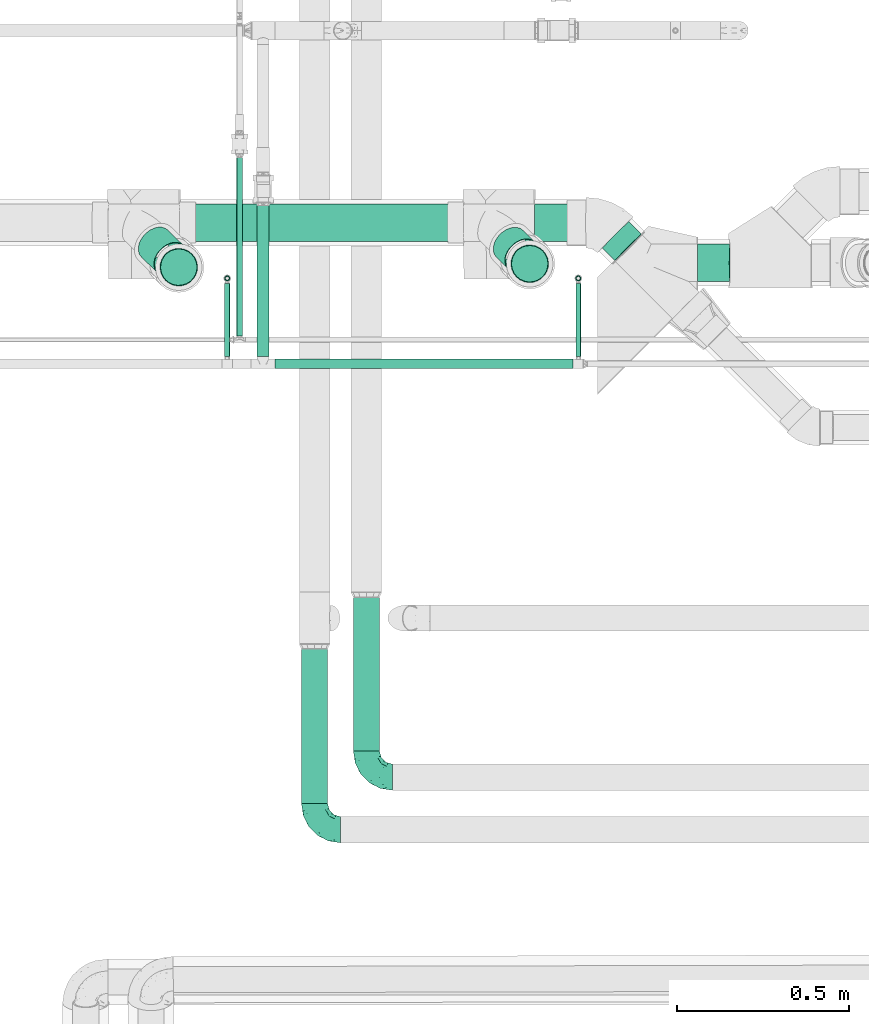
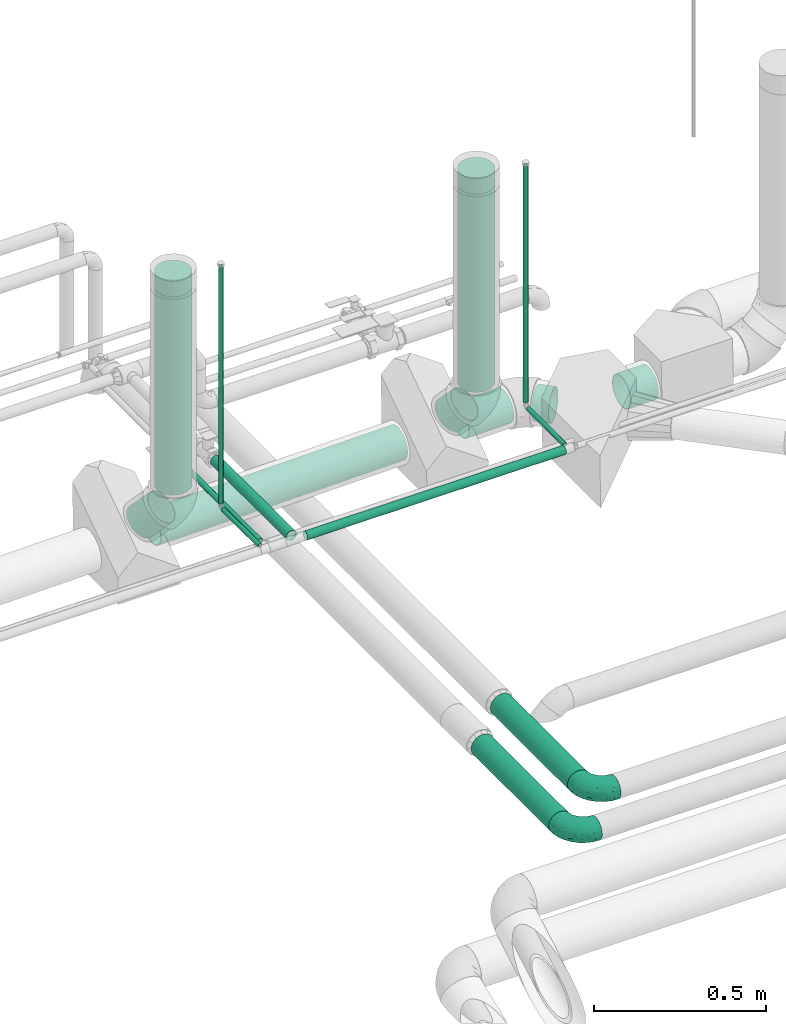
# One storey, part 58 of 156: 17 flow segments, 4 flow fittings.
"""IFC2X3 building model written with IfcOpenShell, lengths in millimetres."""

import ifcopenshell
import ifcopenshell.guid

model = None  # the IFC model being written
_history = None  # IfcOwnerHistory: only IFC2X3 demands one
_inside = {}  # id of a spatial element -> (the spatial element, [elements in it])
_under = {}  # id of a project, library or spatial element -> (it, [spatial elements below it])
_declared = {}  # id of a project -> (the project, [libraries it declares])
_typed = {}  # id of a type object -> (the type object, [elements of that type])
_made_of = {}  # id of a material, layer set ... -> (it, [elements and type objects made of it])


def new_model(schema):
    """Start an empty IFC model of exactly this schema.

    Asked for "IFC4X3", IfcOpenShell would pick the latest addendum, in which some entities
    have other attributes; the version numbers below select the first issue.
    IFC2X3 requires an IfcOwnerHistory on every rooted entity: one is made here for all.
    """
    global model, _history
    if schema == "IFC4X3":
        model = ifcopenshell.file(schema_version=(4, 3, 0, 0))
    else:
        model = ifcopenshell.file(schema=schema)
    _inside.clear()
    _under.clear()
    _declared.clear()
    _typed.clear()
    _made_of.clear()
    _history = None
    if model.schema == "IFC2X3":
        org = make("IfcOrganization", Name="unknown")
        user = make(
            "IfcPersonAndOrganization",
            ThePerson=make("IfcPerson", FamilyName="unknown"),
            TheOrganization=org,
        )
        app = make(
            "IfcApplication",
            ApplicationDeveloper=org,
            Version="unknown",
            ApplicationFullName="unknown",
            ApplicationIdentifier="unknown",
        )
        _history = make(
            "IfcOwnerHistory",
            OwningUser=user,
            OwningApplication=app,
            ChangeAction="ADDED",
            CreationDate=0,
        )
    return model


def make(cls, **values):
    """One entity of the class cls with the attributes given. An attribute that is None is left unset."""
    return model.create_entity(
        cls, **{name: value for name, value in values.items() if value is not None}
    )


def entity(cls, *values):
    """Any entity or typed value of the class cls, its attributes in the order of the schema. None: left unset."""
    e = model.create_entity(cls)
    for i, value in enumerate(values):
        if value is not None:
            e[i] = value
    return e


def rooted(cls, **values):
    """An entity with a GlobalId (a new one), such as an element, a storey or a relation."""
    return make(cls, GlobalId=ifcopenshell.guid.new(), OwnerHistory=_history, **values)


def si_unit(unit_type, name, prefix=None):
    """IfcSIUnit, for example si_unit("LENGTHUNIT", "METRE", prefix="MILLI")."""
    return make("IfcSIUnit", UnitType=unit_type, Prefix=prefix, Name=name)


def converted_unit(unit_type, name, factor, base, dimensions=None, offset=None):
    """IfcConversionBasedUnit, such as the inch: factor (a typed value) times the base unit."""
    return make(
        "IfcConversionBasedUnit"
        if offset is None
        else "IfcConversionBasedUnitWithOffset",
        ConversionOffset=offset,
        Dimensions=None
        if dimensions is None
        else entity("IfcDimensionalExponents", *dimensions),
        UnitType=unit_type,
        Name=name,
        ConversionFactor=make(
            "IfcMeasureWithUnit", ValueComponent=factor, UnitComponent=base
        ),
    )


def derived_unit(unit_type, elements):
    """IfcDerivedUnit: a product of units, each with its exponent."""
    return make(
        "IfcDerivedUnit",
        Elements=[
            make("IfcDerivedUnitElement", Unit=unit, Exponent=power)
            for unit, power in elements
        ],
        UnitType=unit_type,
    )


def assignment(units):
    """IfcUnitAssignment: the units of a project."""
    return None if units is None else make("IfcUnitAssignment", Units=units)


def point(xyz):
    """IfcCartesianPoint."""
    return None if xyz is None else make("IfcCartesianPoint", Coordinates=xyz)


def direction(xyz):
    """IfcDirection."""
    return None if xyz is None else make("IfcDirection", DirectionRatios=xyz)


def frame(location, z_axis=None, x_axis=None):
    """IfcAxis2Placement3D, a coordinate frame: its origin and axes. An axis left out is left unset."""
    return make(
        "IfcAxis2Placement3D",
        Location=point(location),
        Axis=direction(z_axis),
        RefDirection=direction(x_axis),
    )


def frame_2d(location, x_axis=None):
    """IfcAxis2Placement2D, a coordinate frame in the plane: its origin and x axis."""
    return make(
        "IfcAxis2Placement2D", Location=point(location), RefDirection=direction(x_axis)
    )


def origin_with_axes():
    """The frame at (0, 0, 0) with the z axis (0, 0, 1) and the x axis (1, 0, 0) written out."""
    return frame((0.0, 0.0, 0.0), z_axis=(0.0, 0.0, 1.0), x_axis=(1.0, 0.0, 0.0))


def origin_2d_with_axis():
    """The frame at (0, 0) in the plane with the x axis (1, 0) written out."""
    return frame_2d((0.0, 0.0), x_axis=(1.0, 0.0))


def place(relative_to, where):
    """IfcLocalPlacement: puts the frame where relative to a parent placement (None: the world)."""
    return make(
        "IfcLocalPlacement", PlacementRelTo=relative_to, RelativePlacement=where
    )


def context(
    kind, dimensions, precision=None, world=None, true_north=None, identifier=None
):
    """IfcGeometricRepresentationContext, for example the 3D "Model" context."""
    return make(
        "IfcGeometricRepresentationContext",
        ContextIdentifier=identifier,
        ContextType=kind,
        CoordinateSpaceDimension=dimensions,
        Precision=precision,
        WorldCoordinateSystem=world,
        TrueNorth=true_north,
    )


def subcontext(parent, identifier, kind, view, scale=None):
    """IfcGeometricRepresentationSubContext, for example "Body" below "Model"."""
    return make(
        "IfcGeometricRepresentationSubContext",
        ContextIdentifier=identifier,
        ContextType=kind,
        ParentContext=parent,
        TargetScale=scale,
        TargetView=view,
    )


def project(units=None, contexts=None):
    """IfcProject with its units and contexts."""
    return rooted(
        "IfcProject",
        Name="project",
        RepresentationContexts=contexts,
        UnitsInContext=assignment(units),
    )


def spatial(cls, under=None, at=None, **own):
    """A site, building, storey or space (cls), placed at a placement, below another one or the project."""
    s = rooted(cls, ObjectPlacement=at, **own)
    if under is not None:
        _under.setdefault(under.id(), (under, []))[1].append(s)
    return s


def profile(cls, at=None, kind="AREA", **sizes):
    """A parametric profile (cls). Its sizes go by their IFC names, for example OverallWidth=200.0."""
    return make(cls, ProfileType=kind, Position=at, **sizes)


def hollow_circle(**sizes):
    """IfcCircleHollowProfileDef."""
    return profile("IfcCircleHollowProfileDef", **sizes)


def extrude(swept, where, along, depth):
    """IfcExtrudedAreaSolid: the profile swept, set in the frame where, extruded along a direction by depth."""
    return make(
        "IfcExtrudedAreaSolid",
        SweptArea=swept,
        Position=where,
        ExtrudedDirection=direction(along),
        Depth=depth,
    )


def faces_of(points, faces, orient=None, outer=None):
    """IfcFace entities. A face is a list of loops; a loop is a list of indices into points, from 0.

    orient and outer hold one flag for each loop. By default every Orientation is true, the
    first loop of a face is its IfcFaceOuterBound and the others are IfcFaceBound.
    """
    made = []
    for i, loops in enumerate(faces):
        bounds = []
        for j, loop in enumerate(loops):
            is_outer = j == 0 if outer is None else outer[i][j]
            bounds.append(
                make(
                    "IfcFaceOuterBound" if is_outer else "IfcFaceBound",
                    Bound=make("IfcPolyLoop", Polygon=[points[k] for k in loop]),
                    Orientation=True if orient is None else orient[i][j],
                )
            )
        made.append(make("IfcFace", Bounds=bounds))
    return made


def open_shell(faces, orient=None, outer=None):
    """The faces of one IfcOpenShell. surface_model builds it on its shared points."""
    return ("IfcOpenShell", faces, orient, outer)


def surface_model(cls, points, shells):
    """IfcFaceBasedSurfaceModel or IfcShellBasedSurfaceModel (cls): surfaces that need not close."""
    shared = [point(p) for p in points]
    made = [make(c, CfsFaces=faces_of(shared, fs, o, b)) for c, fs, o, b in shells]
    if cls == "IfcFaceBasedSurfaceModel":
        return make(cls, FbsmFaces=made)
    return make(cls, SbsmBoundary=made)


def shape(context_of_items, identifier, shape_type, items):
    """IfcShapeRepresentation: the items that make up one representation, for example the "Body"."""
    return make(
        "IfcShapeRepresentation",
        ContextOfItems=context_of_items,
        RepresentationIdentifier=identifier,
        RepresentationType=shape_type,
        Items=items,
    )


def source(mapping_origin, context_of_items, identifier, shape_type, items):
    """IfcRepresentationMap: a shape defined once, which mapped items show again and again."""
    return make(
        "IfcRepresentationMap",
        MappingOrigin=mapping_origin,
        MappedRepresentation=shape(context_of_items, identifier, shape_type, items),
    )


def transform(
    local_origin,
    x_axis=None,
    y_axis=None,
    z_axis=None,
    scale=None,
    scale2=None,
    scale3=None,
    uniform=True,
):
    """IfcCartesianTransformationOperator3D, or its non-uniform kind. x_axis, y_axis, z_axis: its Axis1, 2, 3."""
    if uniform:
        return make(
            "IfcCartesianTransformationOperator3D",
            Axis1=direction(x_axis),
            Axis2=direction(y_axis),
            LocalOrigin=point(local_origin),
            Scale=scale,
            Axis3=direction(z_axis),
        )
    return make(
        "IfcCartesianTransformationOperator3DnonUniform",
        Axis1=direction(x_axis),
        Axis2=direction(y_axis),
        LocalOrigin=point(local_origin),
        Scale=scale,
        Axis3=direction(z_axis),
        Scale2=scale2,
        Scale3=scale3,
    )


def mapped(mapping_source, mapping_target):
    """IfcMappedItem: shows the shape of a source again, moved by a transform."""
    return make(
        "IfcMappedItem", MappingSource=mapping_source, MappingTarget=mapping_target
    )


def made_of(thing, what):
    """Note that an element or type object is made of a material, layer set ...; save() writes the relation."""
    if what is not None:
        _made_of.setdefault(what.id(), (what, []))[1].append(thing)
    return thing


def type_object(cls, material=None, **own):
    """A type object (cls), such as IfcWallType, which elements share."""
    return made_of(rooted(cls, **own), material)


def element(
    cls,
    number,
    at=None,
    inside=None,
    cuts=None,
    type_object=None,
    material=None,
    context=None,
    identifier="Body",
    shape_type=None,
    held_by="IfcProductDefinitionShape",
    body=None,
    shapes=None,
    **own,
):
    """One element of the class cls, such as IfcWall. Its Tag is "e" and its number.

    at: its placement. inside: the storey or other place that contains it. cuts: it is an
    opening in that element (IfcRelVoidsElement). A single representation is given by context,
    identifier, shape_type and body (its items); several are given by shapes. held_by: the class
    of the entity that holds the representations. save() writes the other relations.
    """
    e = rooted(cls, Tag="e%d" % number, ObjectPlacement=at, **own)
    if body is not None:
        shapes = [shape(context, identifier, shape_type, body)]
    if shapes is not None:
        e.Representation = make(held_by, Representations=shapes)
    if inside is not None:
        _inside.setdefault(inside.id(), (inside, []))[1].append(e)
    if cuts is not None:
        rooted(
            "IfcRelVoidsElement", RelatingBuildingElement=cuts, RelatedOpeningElement=e
        )
    if type_object is not None:
        _typed.setdefault(type_object.id(), (type_object, []))[1].append(e)
    return made_of(e, material)


def aggregate(whole, parts):
    """IfcRelAggregates: a whole, such as a stair, and the parts it consists of."""
    return rooted("IfcRelAggregates", RelatingObject=whole, RelatedObjects=parts)


def save(model, path):
    """Write the relations noted so far, then the file.

    IfcRelAggregates (storeys below a building ...), IfcRelContainedInSpatialStructure (elements
    in a storey), IfcRelDefinesByType, IfcRelAssociatesMaterial and IfcRelDeclares: one each for
    every whole, place, type object, material and project.
    """
    for whole, parts in _under.values():
        aggregate(whole, parts)
    for where, things in _inside.values():
        rooted(
            "IfcRelContainedInSpatialStructure",
            RelatedElements=things,
            RelatingStructure=where,
        )
    for kind, things in _typed.values():
        rooted("IfcRelDefinesByType", RelatedObjects=things, RelatingType=kind)
    for what, things in _made_of.values():
        rooted("IfcRelAssociatesMaterial", RelatedObjects=things, RelatingMaterial=what)
    for by, libraries in _declared.values():
        rooted("IfcRelDeclares", RelatingContext=by, RelatedDefinitions=libraries)
    model.write(path)


model = new_model("IFC2X3")

# Units and contexts
model_context = context("Model", 3, precision=0.01, world=frame((0.0, 4.29681676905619e-09, 0.0)), true_north=direction((4.01073788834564e-13, 1.0)))
plan_context = context("Plan", 3, precision=0.01, world=frame((0.0, 4.29681676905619e-09, 0.0)), true_north=direction((4.01073788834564e-13, 1.0)))
body_context = subcontext(model_context, "Body", "Model", "MODEL_VIEW")
ifc_project = project(units=[converted_unit("PLANEANGLEUNIT", "DEGREE", entity("IfcPositiveLengthMeasure", 0.0174532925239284), si_unit("PLANEANGLEUNIT", "RADIAN"), dimensions=[0, 0, 0, 0, 0, 0, 0]), si_unit("AREAUNIT", "SQUARE_METRE"), si_unit("LENGTHUNIT", "METRE", prefix="MILLI"), si_unit("MASSUNIT", "GRAM", prefix="KILO"), si_unit("POWERUNIT", "WATT"), si_unit("PRESSUREUNIT", "PASCAL", prefix="KILO"), si_unit("FORCEUNIT", "NEWTON", prefix="KILO"), si_unit("ELECTRICVOLTAGEUNIT", "VOLT"), si_unit("ELECTRICCURRENTUNIT", "AMPERE"), si_unit("THERMODYNAMICTEMPERATUREUNIT", "DEGREE_CELSIUS"), si_unit("TIMEUNIT", "SECOND"), si_unit("VOLUMEUNIT", "CUBIC_METRE"), derived_unit("LINEARVELOCITYUNIT", [(si_unit("LENGTHUNIT", "METRE"), 1), (si_unit("TIMEUNIT", "SECOND"), -1)]), derived_unit("VOLUMETRICFLOWRATEUNIT", [(si_unit("VOLUMEUNIT", "CUBIC_METRE"), 1), (si_unit("TIMEUNIT", "SECOND"), -1)]), derived_unit("THERMALTRANSMITTANCEUNIT", [(si_unit("POWERUNIT", "WATT"), 1), (si_unit("THERMODYNAMICTEMPERATUREUNIT", "KELVIN"), -1), (si_unit("AREAUNIT", "SQUARE_METRE"), -1)]), derived_unit("SOUNDPRESSUREUNIT", [(si_unit("PRESSUREUNIT", "PASCAL"), 1)])], contexts=[model_context, plan_context])

# Site, building, storey
site_placement = place(None, frame((0.0, -4.29681676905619e-09, 0.0), z_axis=(0.0, 0.0, 1.0), x_axis=(1.0, 0.0, 0.0)))
site = spatial("IfcSite", under=ifc_project, at=site_placement, CompositionType="ELEMENT")
building_placement = place(site_placement, frame((0.0, 4.29681676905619e-09, 0.0), z_axis=(0.0, 0.0, 1.0), x_axis=(1.0, 0.0, 0.0)))
building = spatial("IfcBuilding", under=site, at=building_placement, Name="mc-building", CompositionType="ELEMENT")
storey_placement = place(building_placement, frame((0.0, 0.0, 205200.0), z_axis=(0.0, 0.0, 1.0), x_axis=(1.0, 0.0, 0.0)))
storey = spatial("IfcBuildingStorey", under=building, at=storey_placement, Name="Nivå D + 1,2 m", CompositionType="ELEMENT", Elevation=205200.0)

# Flow fittings
pipe_fitting_type_1 = type_object("IfcPipeFittingType", Name="magi_pipe_fe_elbow_short_001", PredefinedType="BEND")
shared_shape_1 = source(origin_with_axes(), body_context, "Body", "SurfaceModel", [
    surface_model("IfcShellBasedSurfaceModel", [(-76.2, 19.05, -32.99557), (-76.2, 9.86101, -36.80177), (-76.2, 0.0, -38.1), (-76.2, 26.94077, -26.94077), (-76.2, 36.80177, -9.86101), (-76.2, 32.99557, -19.05), (-76.2, -26.94077, -26.94077), (-76.2, -36.80177, -9.86101), (-76.2, -19.05, -32.99557), (-76.2, -9.86101, -36.80177), (-76.2, -32.99557, -19.05), (-76.2, -38.1, 0.0), (-76.2, -36.80177, 9.86101), (-76.2, 26.94077, 26.94077), (-76.2, 36.80177, 9.86101), (-76.2, 32.99557, 19.05), (-76.2, 9.86101, 36.80177), (-76.2, 19.05, 32.99557), (-76.2, 0.0, 38.1), (-76.2, -32.99557, 19.05), (-76.2, -26.94077, 26.94077), (-76.2, -9.86101, 36.80177), (-76.2, -19.05, 32.99557), (-76.2, 38.1, 0.0), (0.0, 76.2, -38.1), (-9.86101, 76.2, -36.80177), (-19.05, 76.2, -32.99557), (-26.94077, 76.2, -26.94077), (-32.99557, 76.2, -19.05), (-36.80177, 76.2, -9.86101), (26.94077, 76.2, -26.94077), (36.80177, 76.2, -9.86101), (9.86101, 76.2, -36.80177), (19.05, 76.2, -32.99557), (32.99557, 76.2, -19.05), (36.80177, 76.2, 9.86101), (38.1, 76.2, 0.0), (-36.80177, 76.2, 9.86101), (-26.94077, 76.2, 26.94077), (-32.99557, 76.2, 19.05), (-19.05, 76.2, 32.99557), (-9.86101, 76.2, 36.80177), (0.0, 76.2, 38.1), (26.94077, 76.2, 26.94077), (32.99557, 76.2, 19.05), (9.86101, 76.2, 36.80177), (19.05, 76.2, 32.99557), (-38.1, 76.2, 0.0), (-51.47253, -33.41495, 11.97429), (-55.87921, -29.59735, 21.38675), (-40.87936, -32.50576, 0.0), (-57.46182, -35.13216, 0.0), (-9.7569, -13.15819, 14.69187), (-2.65186, -10.17769, 8.01257), (2.20082, -2.20082, 15.78668), (-58.2046, -5.04721, 37.4484), (-53.35237, 5.84022, 38.03506), (13.01533, 9.30417, 14.3119), (23.26567, 31.00373, 18.95093), (8.92292, 13.82363, 24.31711), (-37.93212, -0.34191, 36.92855), (-55.73356, -14.37507, 34.26516), (-29.5907, -8.99996, 31.84562), (-48.87429, -21.76577, 28.30344), (-34.13735, -29.20196, 7.83838), (-24.94775, -24.3882, 0.0), (-13.82363, -8.92292, 24.31711), (-6.80575, 6.80575, 31.14998), (-37.24299, 60.80967, 16.55959), (-31.82754, 59.31737, 25.03043), (-14.22204, 65.71998, 35.68746), (-5.22176, 56.99222, 38.00642), (-58.73143, 14.94265, 35.9909), (-9.94517, 25.51838, 37.4103), (-18.93111, 6.98952, 35.57772), (-3.89226, 20.58438, 35.01344), (-65.91802, 23.07271, 31.04479), (-13.24152, 37.4675, 38.03164), (-28.22122, 28.22122, 37.17425), (-22.68668, 16.64938, 37.90374), (-60.23482, 40.58212, 8.37688), (-60.8286, 37.23683, 16.55705), (-47.30619, 47.30619, 14.2421), (-59.55922, 31.76102, 25.00381), (21.76577, 48.87429, 28.30344), (-39.51357, 50.50487, 21.56421), (14.37507, 55.73356, 34.26516), (29.59735, 55.87921, 21.38675), (33.41495, 51.47253, 11.97429), (-9.01615, -16.27064, 0.0), (-18.50075, -20.95742, 9.87146), (5.04721, 58.2046, 37.4484), (-41.86713, 16.32002, 37.41817), (-37.38612, 9.33613, 38.08374), (24.3882, 24.94775, 0.0), (29.20196, 34.13735, 7.83838), (20.95742, 18.50075, 9.87146), (35.13216, 57.46182, 0.0), (-40.50473, 25.85184, 35.24027), (-31.00373, -23.26567, 18.95093), (-27.62233, 49.24446, 32.02197), (-23.27638, 63.88751, 31.20285), (-40.10509, 61.46399, 8.17366), (-47.75011, 49.97248, 6.70535), (17.55292, 30.69115, 25.82241), (8.99996, 29.5907, 31.84562), (-43.20443, 57.15, 0.0), (-35.27088, 40.23417, 31.3068), (-52.46543, 25.86294, 32.08413), (-0.58232, 0.58231, 22.50977), (-21.74145, 39.43998, 36.62577), (-30.35377, 36.8865, 34.66668), (-16.47755, 51.62643, 36.28492), (-40.16133, 42.54966, 26.98796), (-48.93373, 40.93898, 21.24545), (0.34191, 37.93212, 36.92855), (-30.54899, -16.70018, 26.56572), (10.38979, 2.76708, 7.59679), (32.50576, 40.87936, 0.0), (16.27064, 9.01615, 0.0), (-57.15, 43.20443, 0.0), (3.62725, -3.62725, 0.0), (-56.18403, 32.81229, -25.37784), (-60.79374, 37.24818, -16.56172), (-31.12583, -9.61531, -31.96506), (-33.08389, -0.47526, -36.23756), (-15.30809, -0.63756, -31.219), (-60.31522, 4.8175, -37.976), (-55.58208, -34.10815, -12.42093), (-47.87166, -28.25416, -20.6363), (-36.35476, -28.57081, -12.78243), (-55.4317, 15.55274, -36.12913), (-41.97308, 9.00674, -38.09177), (-32.8123, 56.18403, -25.37784), (-61.68117, 39.97816, -8.33686), (-23.91371, 59.81378, -31.51803), (-15.55274, 55.4317, -36.12913), (-48.48008, 48.48008, -9.09668), (22.76239, 55.12076, -28.76608), (13.14871, 48.24989, -33.88525), (15.02018, 64.34702, -34.67535), (-7.42295, -13.4022, -10.03386), (-7.53093, -9.8797, -17.36177), (4.09889, -3.23385, -10.05311), (-22.23209, 20.60173, -38.07837), (-36.11879, 22.54399, -36.96599), (-59.81378, 23.91371, -31.51803), (-64.14494, -30.32973, -22.13621), (-37.06617, 43.2809, -28.69704), (-35.21221, 35.21221, -33.45314), (-46.56802, 32.18433, -30.26847), (3.32253, -0.70027, -16.3296), (-55.12076, -22.76239, -28.76608), (28.25416, 47.87166, -20.6363), (34.10815, 55.58208, -12.42093), (28.57081, 36.35476, -12.78243), (-64.34702, -15.02018, -34.67535), (4.80394, 56.13349, -37.40338), (-24.08639, -18.54476, -20.78452), (-28.44745, -15.54194, -26.65272), (-13.81153, -9.41447, -23.82138), (-41.58053, -17.39667, -29.91543), (-48.24989, -13.14871, -33.88525), (-56.1335, -4.80394, -37.40338), (-28.5499, 46.87201, -32.27447), (-39.97816, 61.68117, -8.33686), (-4.8175, 60.31522, -37.976), (-13.45022, 13.45022, -35.97664), (0.47526, 33.08389, -36.23756), (1.60394, 17.89715, -31.77365), (-37.24818, 60.79374, -16.56172), (-45.75928, 45.75928, -18.77942), (30.32973, 64.14494, -22.13621), (22.08018, 30.6107, -20.46174), (12.28189, 14.44402, -21.13272), (15.54194, 28.44745, -26.65272), (7.87454, 32.5264, -33.28409), (-9.00674, 41.97308, -38.09177), (-46.32128, 24.51975, -34.33978), (-22.71812, 37.0764, -36.7817), (-0.36118, 0.36118, -22.07635), (-17.64772, -21.30183, -6.55407), (19.53658, 18.92928, -14.18962), (21.30183, 17.64772, -6.55407), (4.4885, 11.61303, -26.72553), (-18.92929, -19.53658, -14.18962)], [open_shell([[[0, 1, 2]], [[3, 0, 2]], [[4, 5, 3]], [[6, 3, 2]], [[4, 3, 7]], [[8, 6, 9]], [[6, 2, 9]], [[10, 7, 6]], [[6, 7, 3]], [[11, 12, 7]], [[12, 4, 7]], [[13, 14, 4]], [[15, 14, 13]], [[16, 17, 13]], [[4, 12, 13]], [[13, 18, 16]], [[19, 20, 12]], [[21, 12, 20]], [[22, 21, 20]], [[21, 13, 12]], [[21, 18, 13]], [[23, 4, 14]], [[24, 25, 26]], [[24, 26, 27]], [[27, 28, 29]], [[24, 27, 30]], [[31, 27, 29]], [[32, 30, 33]], [[32, 24, 30]], [[30, 31, 34]], [[27, 31, 30]], [[31, 35, 36]], [[31, 29, 35]], [[29, 37, 38]], [[38, 37, 39]], [[38, 40, 41]], [[29, 38, 35]], [[42, 38, 41]], [[35, 43, 44]], [[43, 35, 45]], [[43, 45, 46]], [[35, 38, 45]], [[38, 42, 45]], [[37, 29, 47]], [[48, 49, 19]], [[50, 48, 51]], [[52, 53, 54]], [[12, 48, 19]], [[12, 51, 48]], [[18, 55, 56]], [[19, 49, 20]], [[57, 58, 59]], [[60, 61, 62]], [[63, 22, 20]], [[63, 61, 22]], [[64, 50, 65]], [[62, 66, 67]], [[39, 68, 69]], [[41, 70, 71]], [[16, 72, 17]], [[73, 74, 75]], [[17, 76, 13]], [[21, 55, 18]], [[77, 78, 79]], [[80, 81, 82]], [[15, 83, 81]], [[84, 43, 46]], [[23, 14, 80]], [[14, 15, 81]], [[68, 85, 69]], [[83, 15, 13]], [[18, 56, 16]], [[46, 86, 84]], [[13, 76, 83]], [[87, 58, 88]], [[39, 37, 68]], [[89, 90, 65]], [[42, 91, 45]], [[65, 90, 64]], [[42, 41, 71]], [[92, 93, 79]], [[88, 35, 44]], [[44, 43, 87]], [[87, 88, 44]], [[94, 95, 96]], [[88, 97, 35]], [[98, 72, 92]], [[49, 99, 63]], [[69, 100, 101]], [[82, 102, 103]], [[104, 105, 59]], [[106, 102, 47]], [[98, 107, 108]], [[102, 82, 68]], [[86, 46, 45]], [[69, 38, 39]], [[109, 54, 57]], [[110, 100, 111]], [[22, 61, 21]], [[101, 40, 38]], [[70, 41, 40]], [[112, 77, 71]], [[84, 86, 105]], [[96, 95, 58]], [[100, 69, 113]], [[72, 16, 56]], [[108, 113, 83]], [[81, 114, 82]], [[112, 110, 77]], [[91, 71, 115]], [[62, 61, 63]], [[55, 61, 60]], [[116, 99, 66]], [[74, 62, 67]], [[91, 86, 45]], [[105, 86, 115]], [[75, 105, 115]], [[109, 67, 66]], [[59, 105, 67]], [[48, 64, 99]], [[99, 49, 48]], [[63, 20, 49]], [[43, 84, 87]], [[58, 87, 84]], [[92, 72, 56]], [[76, 72, 108]], [[102, 68, 37]], [[82, 114, 85]], [[98, 111, 107]], [[112, 70, 101]], [[114, 83, 113]], [[82, 103, 80]], [[92, 79, 78]], [[115, 71, 77]], [[74, 79, 60]], [[77, 79, 73]], [[71, 91, 42]], [[86, 91, 115]], [[61, 55, 21]], [[56, 55, 60]], [[57, 54, 117]], [[104, 59, 58]], [[116, 66, 62]], [[52, 99, 90]], [[12, 11, 51]], [[97, 88, 118]], [[97, 36, 35]], [[53, 90, 89]], [[90, 53, 52]], [[94, 96, 119]], [[88, 95, 118]], [[117, 54, 53]], [[92, 56, 93]], [[98, 92, 78]], [[111, 98, 78]], [[72, 98, 108]], [[110, 111, 78]], [[107, 111, 100]], [[47, 102, 37]], [[102, 106, 103]], [[106, 120, 103]], [[103, 120, 80]], [[23, 80, 120]], [[14, 81, 80]], [[56, 60, 93]], [[60, 79, 93]], [[117, 121, 119]], [[121, 117, 53]], [[53, 89, 121]], [[119, 96, 117]], [[117, 96, 57]], [[77, 110, 78]], [[100, 110, 112]], [[83, 114, 81]], [[85, 114, 113]], [[69, 85, 113]], [[82, 85, 68]], [[109, 52, 54]], [[99, 52, 66]], [[69, 101, 38]], [[112, 101, 100]], [[100, 113, 107]], [[108, 107, 113]], [[62, 74, 60]], [[75, 74, 67]], [[105, 75, 67]], [[73, 75, 115]], [[77, 73, 115]], [[74, 73, 79]], [[99, 64, 90]], [[50, 64, 48]], [[118, 95, 94]], [[58, 95, 88]], [[58, 57, 96]], [[109, 57, 59]], [[72, 76, 17]], [[83, 76, 108]], [[101, 70, 40]], [[71, 70, 112]], [[58, 84, 104]], [[105, 104, 84]], [[67, 109, 59]], [[52, 109, 66]], [[62, 63, 116]], [[99, 116, 63]], [[122, 5, 123]], [[124, 125, 126]], [[2, 1, 127]], [[128, 129, 130]], [[127, 131, 132]], [[28, 27, 133]], [[120, 134, 23]], [[135, 26, 136]], [[123, 134, 137]], [[138, 139, 140]], [[122, 3, 5]], [[141, 142, 143]], [[144, 132, 145]], [[131, 0, 146]], [[128, 10, 147]], [[148, 149, 150]], [[128, 51, 7]], [[142, 151, 143]], [[152, 6, 8]], [[153, 154, 155]], [[156, 152, 8]], [[32, 157, 24]], [[158, 159, 160]], [[147, 10, 6]], [[129, 152, 161]], [[156, 8, 9]], [[162, 163, 125]], [[154, 34, 31]], [[120, 106, 137]], [[149, 148, 164]], [[47, 29, 165]], [[163, 9, 2]], [[5, 4, 123]], [[25, 166, 136]], [[167, 168, 169]], [[170, 133, 171]], [[25, 24, 166]], [[33, 30, 138]], [[157, 32, 140]], [[29, 28, 170]], [[30, 34, 172]], [[26, 135, 27]], [[132, 131, 145]], [[32, 33, 140]], [[173, 174, 175]], [[169, 168, 176]], [[25, 136, 26]], [[175, 138, 173]], [[168, 177, 157]], [[163, 162, 156]], [[153, 172, 154]], [[10, 128, 7]], [[154, 97, 118]], [[131, 178, 145]], [[0, 3, 146]], [[175, 139, 138]], [[155, 118, 94]], [[131, 1, 0]], [[146, 178, 131]], [[170, 137, 165]], [[149, 179, 145]], [[171, 133, 148]], [[160, 180, 142]], [[65, 181, 89]], [[170, 165, 29]], [[137, 171, 123]], [[172, 138, 30]], [[138, 153, 173]], [[168, 157, 139]], [[166, 157, 177]], [[176, 175, 169]], [[168, 167, 144]], [[154, 31, 97]], [[155, 182, 173]], [[162, 124, 161]], [[147, 152, 129]], [[127, 163, 2]], [[132, 144, 125]], [[132, 125, 163]], [[125, 167, 126]], [[129, 158, 130]], [[31, 36, 97]], [[143, 182, 183]], [[169, 126, 167]], [[3, 122, 146]], [[178, 150, 149]], [[136, 179, 164]], [[133, 27, 135]], [[123, 4, 134]], [[122, 123, 171]], [[133, 170, 28]], [[137, 170, 171]], [[184, 175, 174]], [[180, 160, 126]], [[126, 169, 184]], [[126, 159, 124]], [[51, 128, 50]], [[51, 11, 7]], [[131, 127, 1]], [[163, 127, 132]], [[157, 166, 24]], [[136, 166, 177]], [[164, 179, 149]], [[144, 167, 125]], [[179, 144, 145]], [[168, 144, 177]], [[136, 177, 179]], [[144, 179, 177]], [[141, 121, 89]], [[89, 181, 141]], [[154, 118, 155]], [[183, 155, 94]], [[143, 183, 119]], [[119, 183, 94]], [[155, 183, 182]], [[181, 130, 185]], [[50, 128, 130]], [[130, 181, 65]], [[50, 130, 65]], [[141, 181, 185]], [[142, 141, 185]], [[143, 121, 141]], [[158, 160, 142]], [[142, 180, 151]], [[158, 142, 185]], [[126, 160, 159]], [[130, 158, 185]], [[129, 159, 158]], [[23, 134, 4]], [[120, 137, 134]], [[137, 106, 165]], [[47, 165, 106]], [[174, 151, 180]], [[182, 143, 151]], [[150, 146, 122]], [[149, 145, 178]], [[146, 150, 178]], [[122, 171, 148]], [[148, 150, 122]], [[164, 133, 135]], [[133, 164, 148]], [[164, 135, 136]], [[138, 140, 33]], [[157, 140, 139]], [[154, 172, 34]], [[138, 172, 153]], [[163, 156, 9]], [[152, 156, 162]], [[152, 147, 6]], [[128, 147, 129]], [[155, 173, 153]], [[174, 173, 182]], [[151, 174, 182]], [[174, 180, 184]], [[126, 184, 180]], [[175, 184, 169]], [[168, 139, 176]], [[175, 176, 139]], [[161, 124, 159]], [[125, 124, 162]], [[129, 161, 159]], [[162, 161, 152]], [[143, 119, 121]]])]),
])
for number, where, z_axis, x_axis, name in (
    (1, (326883.94863, 460955.93797, 4038.0), (0.0, 0.0, 1.0), (0.0, -1.0, 0.0), "magi_pipe_fe_elbow_short_001"),
    (2, (327035.15172, 461109.07753, 4038.0), (0.0, 0.0, 1.0), (0.0, -1.0, 0.0), "magi_pipe_fe_elbow_short_001"),
):
    element("IfcFlowFitting", number, at=place(storey_placement, frame(where, z_axis=z_axis, x_axis=x_axis)), inside=storey, type_object=pipe_fitting_type_1, Name=name, context=body_context, shape_type="MappedRepresentation", body=[
        mapped(shared_shape_1, transform((0.0, 0.0, 0.0), scale=1.0)),
    ])
pipe_fitting_type_2 = type_object("IfcPipeFittingType", Name="magi_pipe_fe_plug_001", PredefinedType="OBSTRUCTION")
shared_shape_2 = source(origin_with_axes(), body_context, "Body", "SurfaceModel", [
    surface_model("IfcShellBasedSurfaceModel", [(0.0, 27.5, -47.63139), (0.0, 14.23505, -53.12592), (0.0, 0.0, -55.0), (0.0, -38.89087, -38.89087), (0.0, 47.63139, -27.5), (0.0, 38.89087, -38.89087), (0.0, 53.12592, -14.23505), (0.0, -47.63139, -27.5), (0.0, -14.23505, -53.12592), (0.0, -27.5, -47.63139), (0.0, -53.12592, -14.23505), (0.0, -55.0, 0.0), (0.0, 55.0, 0.0), (0.0, 47.63139, 27.5), (0.0, 53.12592, 14.23505), (0.0, 27.5, 47.63139), (0.0, -38.89087, 38.89087), (0.0, 38.89087, 38.89087), (0.0, 14.23505, 53.12592), (0.0, 0.0, 55.0), (0.0, -47.63139, 27.5), (0.0, -53.12592, 14.23505), (0.0, -14.23505, 53.12592), (0.0, -27.5, 47.63139), (55.0, 0.0, -55.0), (55.0, 14.23505, -53.12592), (55.0, 27.5, -47.63139), (55.0, -38.89087, -38.89087), (55.0, 47.63139, -27.5), (55.0, 38.89087, -38.89087), (55.0, -53.12592, 14.23505), (55.0, -27.5, -47.63139), (55.0, -14.23505, -53.12592), (55.0, -47.63139, -27.5), (55.0, -55.0, 0.0), (55.0, -53.12592, -14.23505), (55.0, 53.12592, -14.23505), (55.0, 55.0, 0.0), (55.0, 53.12592, 14.23505), (55.0, 47.63139, 27.5), (55.0, -38.89087, 38.89087), (55.0, 27.5, 47.63139), (55.0, 38.89087, 38.89087), (55.0, 0.0, 55.0), (55.0, 14.23505, 53.12592), (55.0, -47.63139, 27.5), (55.0, -27.5, 47.63139), (55.0, -14.23505, 53.12592)], [open_shell([[[0, 1, 2]], [[0, 2, 3]], [[4, 0, 3]], [[5, 0, 4]], [[6, 4, 7]], [[8, 9, 2]], [[9, 3, 2]], [[10, 11, 7]], [[4, 3, 7]], [[6, 7, 11]], [[11, 12, 6]], [[13, 14, 12]], [[15, 13, 12]], [[16, 15, 12]], [[17, 13, 15]], [[18, 15, 19]], [[20, 16, 21]], [[21, 16, 11]], [[22, 19, 23]], [[16, 23, 19]], [[16, 19, 15]], [[12, 11, 16]], [[24, 25, 26]], [[27, 24, 26]], [[27, 26, 28]], [[28, 26, 29]], [[28, 30, 27]], [[24, 31, 32]], [[24, 27, 31]], [[33, 34, 35]], [[34, 33, 27]], [[27, 30, 34]], [[28, 36, 30]], [[37, 38, 39]], [[40, 37, 39]], [[40, 39, 41]], [[41, 39, 42]], [[43, 41, 44]], [[30, 40, 45]], [[30, 37, 40]], [[46, 43, 47]], [[43, 46, 40]], [[41, 43, 40]], [[37, 30, 36]], [[11, 34, 30]], [[21, 30, 45]], [[23, 40, 46]], [[22, 46, 47]], [[45, 40, 16]], [[45, 20, 21]], [[21, 11, 30]], [[16, 40, 23]], [[23, 46, 22]], [[47, 19, 22]], [[16, 20, 45]], [[47, 43, 19]], [[15, 44, 41]], [[42, 17, 41]], [[14, 39, 38]], [[42, 39, 13]], [[12, 38, 37]], [[44, 18, 43]], [[44, 15, 18]], [[43, 18, 19]], [[41, 17, 15]], [[42, 13, 17]], [[14, 13, 39]], [[38, 12, 14]], [[36, 12, 37]], [[28, 6, 36]], [[29, 26, 5]], [[28, 29, 4]], [[1, 26, 25]], [[28, 4, 6]], [[6, 12, 36]], [[0, 5, 26]], [[2, 1, 24]], [[5, 4, 29]], [[26, 1, 0]], [[1, 25, 24]], [[9, 32, 31]], [[27, 3, 31]], [[10, 33, 35]], [[27, 33, 7]], [[11, 35, 34]], [[32, 8, 24]], [[32, 9, 8]], [[24, 8, 2]], [[31, 3, 9]], [[27, 7, 3]], [[10, 7, 33]], [[35, 11, 10]]])]),
])
for number, where, z_axis, x_axis, name in (
    (3, (326488.40933, 462595.06945, 5130.97503), (0.99999999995, -2.58493941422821e-26, -9.9999999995e-06), (9.999999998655e-06, 1.29999999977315e-05, 0.9999999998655), "magi_pipe_fe_plug_001"),
    (4, (327510.90718, 462605.08836, 5130.97503999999), (0.99999999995, -2.58493941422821e-26, -9.9999999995e-06), (9.999999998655e-06, 1.29999999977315e-05, 0.9999999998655), "magi_pipe_fe_plug_001"),
):
    element("IfcFlowFitting", number, at=place(storey_placement, frame(where, z_axis=z_axis, x_axis=x_axis)), inside=storey, type_object=pipe_fitting_type_2, Name=name, context=body_context, shape_type="MappedRepresentation", body=[
        mapped(shared_shape_2, transform((0.0, 0.0, 0.0), scale=1.0)),
    ])

# Flow segments
pipe_segment_type_1 = type_object("IfcPipeSegmentType", Name="Stålrør normaltykke", PredefinedType="RIGIDSEGMENT")
shared_shape_3 = source(origin_with_axes(), body_context, "Body", "SweptSolid", [
    extrude(hollow_circle(Radius=38.0, WallThickness=2.0, at=origin_2d_with_axis()), frame((0.0, 0.0, 0.0), z_axis=(1.0, 0.0, 0.0), x_axis=(0.0, 1.0, 0.0)), (0.0, 0.0, 1.0), 451.3),
])
flow_segment_1_placement = place(storey_placement, frame((326883.94863, 461032.13797, 4038.0), z_axis=(0.0, 0.0, 1.0), x_axis=(0.0, 1.0, 0.0)))
element("IfcFlowSegment", 5, at=flow_segment_1_placement, inside=storey, type_object=pipe_segment_type_1, Name="Stålrør normaltykke", context=body_context, shape_type="MappedRepresentation", body=[
    mapped(shared_shape_3, transform((0.0, 0.0, 0.0), scale=1.0)),
])
shared_shape_4 = source(origin_with_axes(), body_context, "Body", "SweptSolid", [
    extrude(hollow_circle(Radius=38.0, WallThickness=2.0, at=origin_2d_with_axis()), frame((0.0, 0.0, 0.0), z_axis=(1.0, 0.0, 0.0), x_axis=(0.0, 1.0, 0.0)), (0.0, 0.0, 1.0), 448.5),
])
flow_segment_2_placement = place(storey_placement, frame((327035.15172, 461185.27753, 4038.0), z_axis=(0.0, 0.0, 1.0), x_axis=(0.0, 1.0, 0.0)))
element("IfcFlowSegment", 6, at=flow_segment_2_placement, inside=storey, type_object=pipe_segment_type_1, Name="Stålrør normaltykke", context=body_context, shape_type="MappedRepresentation", body=[
    mapped(shared_shape_4, transform((0.0, 0.0, 0.0), scale=1.0)),
])
pipe_segment_type_2 = type_object("IfcPipeSegmentType", Name="MA", PredefinedType="RIGIDSEGMENT")
shared_shape_5 = source(origin_with_axes(), body_context, "Body", "SweptSolid", [
    extrude(hollow_circle(Radius=55.0, WallThickness=2.0, at=origin_2d_with_axis()), frame((0.0, 0.0, 0.0), z_axis=(1.0, 0.0, 0.0), x_axis=(0.0, 1.0, 0.0)), (0.0, 0.0, 1.0), 149.5),
])
flow_segment_3_placement = place(storey_placement, frame((327525.80353, 462724.75736, 4211.06779), z_axis=(-0.000112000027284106, -0.999976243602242, 0.00689200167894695), x_axis=(0.999861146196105, 2.86378908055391e-06, 0.0166639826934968)))
element("IfcFlowSegment", 7, at=flow_segment_3_placement, inside=storey, type_object=pipe_segment_type_2, Name="MA", context=body_context, shape_type="MappedRepresentation", body=[
    mapped(shared_shape_5, transform((0.0, 0.0, 0.0), scale=1.0)),
])
shared_shape_6 = source(origin_with_axes(), body_context, "Body", "SweptSolid", [
    extrude(hollow_circle(Radius=55.0, WallThickness=2.0, at=origin_2d_with_axis()), frame((0.0, 0.0, 0.0), z_axis=(1.0, 0.0, 0.0), x_axis=(0.0, 1.0, 0.0)), (0.0, 0.0, 1.0), 703.8),
])
flow_segment_4_placement = place(storey_placement, frame((326488.40178, 462595.06172, 4427.1936), z_axis=(0.7152152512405, -0.698904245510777, 0.0), x_axis=(1.33368107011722e-05, 1.36480647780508e-05, 0.99999999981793)))
element("IfcFlowSegment", 8, at=flow_segment_4_placement, inside=storey, type_object=pipe_segment_type_2, Name="MA", context=body_context, shape_type="MappedRepresentation", body=[
    mapped(shared_shape_6, transform((0.0, 0.0, 0.0), scale=1.0)),
])
shared_shape_7 = source(origin_with_axes(), body_context, "Body", "SweptSolid", [
    extrude(hollow_circle(Radius=55.0, WallThickness=2.0, at=origin_2d_with_axis()), frame((0.0, 0.0, 0.0), z_axis=(1.0, 0.0, 0.0), x_axis=(0.0, 1.0, 0.0)), (0.0, 0.0, 1.0), 702.9),
])
flow_segment_5_placement = place(storey_placement, frame((327510.89898, 462605.08016, 4428.10665999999), z_axis=(0.707054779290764, -0.7071587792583, 0.0), x_axis=(1.35010294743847e-05, 1.34990439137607e-05, 0.999999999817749)))
element("IfcFlowSegment", 9, at=flow_segment_5_placement, inside=storey, type_object=pipe_segment_type_2, Name="MA", context=body_context, shape_type="MappedRepresentation", body=[
    mapped(shared_shape_7, transform((0.0, 0.0, 0.0), scale=1.0)),
])
shared_shape_8 = source(origin_with_axes(), body_context, "Body", "SweptSolid", [
    extrude(hollow_circle(Radius=55.0, WallThickness=2.0, at=origin_2d_with_axis()), frame((0.0, 0.0, 0.0), z_axis=(1.0, 0.0, 0.0), x_axis=(0.0, 1.0, 0.0)), (0.0, 0.0, 1.0), 89.7),
])
flow_segment_6_placement = place(storey_placement, frame((326463.04187, 462619.84328, 4341.61603), z_axis=(0.862574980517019, 0.298981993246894, -0.408134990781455), x_axis=(-0.505837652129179, 0.494301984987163, -0.706960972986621)))
element("IfcFlowSegment", 10, at=flow_segment_6_placement, inside=storey, type_object=pipe_segment_type_2, Name="MA", context=body_context, shape_type="MappedRepresentation", body=[
    mapped(shared_shape_8, transform((0.0, 0.0, 0.0), scale=1.0)),
])
shared_shape_9 = source(origin_with_axes(), body_context, "Body", "SweptSolid", [
    extrude(hollow_circle(Radius=55.0, WallThickness=2.0, at=origin_2d_with_axis()), frame((0.0, 0.0, 0.0), z_axis=(1.0, 0.0, 0.0), x_axis=(0.0, 1.0, 0.0)), (0.0, 0.0, 1.0), 67.3),
])
flow_segment_7_placement = place(storey_placement, frame((327485.82396, 462630.15887, 4342.52278), z_axis=(0.86591135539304, 0.297985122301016, -0.401749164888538), x_axis=(-0.500103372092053, 0.500176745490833, -0.706908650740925)))
element("IfcFlowSegment", 11, at=flow_segment_7_placement, inside=storey, type_object=pipe_segment_type_2, Name="MA", context=body_context, shape_type="MappedRepresentation", body=[
    mapped(shared_shape_9, transform((0.0, 0.0, 0.0), scale=1.0)),
])
shared_shape_10 = source(origin_with_axes(), body_context, "Body", "SweptSolid", [
    extrude(hollow_circle(Radius=55.0, WallThickness=2.0, at=origin_2d_with_axis()), frame((0.0, 0.0, 0.0), z_axis=(1.0, 0.0, 0.0), x_axis=(0.0, 1.0, 0.0)), (0.0, 0.0, 1.0), 828.0),
])
flow_segment_8_placement = place(storey_placement, frame((326491.14472, 462724.75736, 4193.82347999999), z_axis=(-0.0166640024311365, 0.0, 0.999861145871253), x_axis=(0.999861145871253, 0.0, 0.0166640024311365)))
element("IfcFlowSegment", 12, at=flow_segment_8_placement, inside=storey, type_object=pipe_segment_type_2, Name="MA", context=body_context, shape_type="MappedRepresentation", body=[
    mapped(shared_shape_10, transform((0.0, 0.0, 0.0), scale=1.0)),
])
shared_shape_11 = source(origin_with_axes(), body_context, "Body", "SweptSolid", [
    extrude(hollow_circle(Radius=55.0, WallThickness=2.0, at=origin_2d_with_axis()), frame((0.0, 0.0, 0.0), z_axis=(1.0, 0.0, 0.0), x_axis=(0.0, 1.0, 0.0)), (0.0, 0.0, 1.0), 51.6),
])
flow_segment_9_placement = place(storey_placement, frame((327760.81329, 462689.32797, 4215.22920999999), z_axis=(-0.707007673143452, -0.707171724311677, -0.00694999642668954), x_axis=(0.707004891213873, -0.707006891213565, 0.0168919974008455)))
element("IfcFlowSegment", 13, at=flow_segment_9_placement, inside=storey, type_object=pipe_segment_type_2, Name="MA", context=body_context, shape_type="MappedRepresentation", body=[
    mapped(shared_shape_11, transform((0.0, 0.0, 0.0), scale=1.0)),
])
shared_shape_12 = source(origin_with_axes(), body_context, "Body", "SweptSolid", [
    extrude(hollow_circle(Radius=55.0, WallThickness=2.0, at=origin_2d_with_axis()), frame((0.0, 0.0, 0.0), z_axis=(1.0, 0.0, 0.0), x_axis=(0.0, 1.0, 0.0)), (0.0, 0.0, 1.0), 92.9),
])
flow_segment_10_placement = place(storey_placement, frame((328000.26252, 462607.66, 4219.79246999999), z_axis=(4.39999810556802e-05, -0.99999656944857, -0.00261899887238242), x_axis=(0.999861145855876, 3.50866696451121e-07, 0.0166640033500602)))
element("IfcFlowSegment", 14, at=flow_segment_10_placement, inside=storey, type_object=pipe_segment_type_2, Name="MA", context=body_context, shape_type="MappedRepresentation", body=[
    mapped(shared_shape_12, transform((0.0, 0.0, 0.0), scale=1.0)),
])
pipe_segment_type_3 = type_object("IfcPipeSegmentType", Name="Kobberrør", PredefinedType="RIGIDSEGMENT")
shared_shape_13 = source(origin_with_axes(), body_context, "Body", "SweptSolid", [
    extrude(hollow_circle(Radius=7.5, WallThickness=2.0, at=origin_2d_with_axis()), frame((0.0, 0.0, 0.0), z_axis=(1.0, 0.0, 0.0), x_axis=(0.0, 1.0, 0.0)), (0.0, 0.0, 1.0), 213.0),
])
for number, where, z_axis, x_axis in (
    (15, (326629.5275, 462334.63355, 4318.0), (0.0, 0.0, 1.0), (0.0, 1.0, 0.0)),
    (16, (327652.53293, 462334.63355, 4318.0), (0.0, 0.0, 1.0), (0.0, 1.0, 0.0)),
):
    element("IfcFlowSegment", number, at=place(storey_placement, frame(where, z_axis=z_axis, x_axis=x_axis)), inside=storey, type_object=pipe_segment_type_3, Name="Kobberrør", context=body_context, shape_type="MappedRepresentation", body=[
        mapped(shared_shape_13, transform((0.0, 0.0, 0.0), scale=1.0)),
    ])
shared_shape_14 = source(origin_with_axes(), body_context, "Body", "SweptSolid", [
    extrude(hollow_circle(Radius=14.0, WallThickness=2.0, at=origin_2d_with_axis()), frame((0.0, 0.0, 0.0), z_axis=(1.0, 0.0, 0.0), x_axis=(0.0, 1.0, 0.0)), (0.0, 0.0, 1.0), 868.2),
])
flow_segment_11_placement = place(storey_placement, frame((326769.3046, 462313.63355, 4318.0), z_axis=(0.0, 0.0, 1.0), x_axis=(1.0, 0.0, 0.0)))
element("IfcFlowSegment", 17, at=flow_segment_11_placement, inside=storey, type_object=pipe_segment_type_3, Name="Kobberrør", context=body_context, shape_type="MappedRepresentation", body=[
    mapped(shared_shape_14, transform((0.0, 0.0, 0.0), scale=1.0)),
])
shared_shape_15 = source(origin_with_axes(), body_context, "Body", "SweptSolid", [
    extrude(hollow_circle(Radius=7.5, WallThickness=2.0, at=origin_2d_with_axis()), frame((0.0, 0.0, 0.0), z_axis=(1.0, 0.0, 0.0), x_axis=(0.0, 1.0, 0.0)), (0.0, 0.0, 1.0), 841.0),
])
for number, where, z_axis, x_axis in (
    (18, (326629.5275, 462562.63355, 4333.0), (0.0, -1.0, 0.0), (0.0, 0.0, 1.0)),
    (19, (327652.53293, 462562.63355, 4333.0), (0.0, -1.0, 0.0), (0.0, 0.0, 1.0)),
):
    element("IfcFlowSegment", number, at=place(storey_placement, frame(where, z_axis=z_axis, x_axis=x_axis)), inside=storey, type_object=pipe_segment_type_3, Name="Kobberrør", context=body_context, shape_type="MappedRepresentation", body=[
        mapped(shared_shape_15, transform((0.0, 0.0, 0.0), scale=1.0)),
    ])
shared_shape_16 = source(origin_with_axes(), body_context, "Body", "SweptSolid", [
    extrude(hollow_circle(Radius=17.5, WallThickness=2.0, at=origin_2d_with_axis()), frame((0.0, 0.0, 0.0), z_axis=(1.0, 0.0, 0.0), x_axis=(0.0, 1.0, 0.0)), (0.0, 0.0, 1.0), 440.5),
])
flow_segment_12_placement = place(storey_placement, frame((326734.3046, 462775.0875, 4318.0), z_axis=(0.0, 0.0, 1.0), x_axis=(0.0, -1.0, 0.0)))
element("IfcFlowSegment", 20, at=flow_segment_12_placement, inside=storey, type_object=pipe_segment_type_3, Name="Kobberrør", context=body_context, shape_type="MappedRepresentation", body=[
    mapped(shared_shape_16, transform((0.0, 0.0, 0.0), scale=1.0)),
])
shared_shape_17 = source(origin_with_axes(), body_context, "Body", "SweptSolid", [
    extrude(hollow_circle(Radius=9.0, WallThickness=2.0, at=origin_2d_with_axis()), frame((0.0, 0.0, 0.0), z_axis=(1.0, 0.0, 0.0), x_axis=(0.0, 1.0, 0.0)), (0.0, 0.0, 1.0), 520.7),
])
flow_segment_13_placement = place(storey_placement, frame((326665.49724, 462915.7125, 4285.29988999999), z_axis=(0.0, 0.0, 1.0), x_axis=(0.0, -1.0, 0.0)))
element("IfcFlowSegment", 21, at=flow_segment_13_placement, inside=storey, type_object=pipe_segment_type_3, Name="Kobberrør", context=body_context, shape_type="MappedRepresentation", body=[
    mapped(shared_shape_17, transform((0.0, 0.0, 0.0), scale=1.0)),
])

save(model, "model.ifc")
